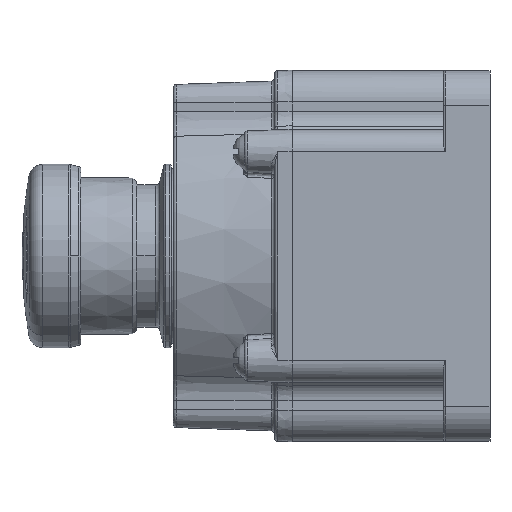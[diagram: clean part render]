
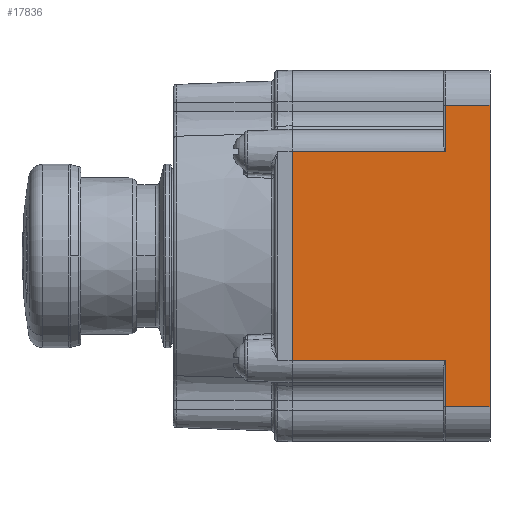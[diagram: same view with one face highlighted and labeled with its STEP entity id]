
A CAD part, left-side view. The second image highlights one B-rep face of the part: STEP entity #17836.
In plain terms, the highlighted planar face has unit normal (-1, 0, 0).
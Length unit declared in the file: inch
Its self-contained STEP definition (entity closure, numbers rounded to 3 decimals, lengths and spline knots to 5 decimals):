
#4824=DIRECTION('',(0.,1.,0.));
#4825=VECTOR('',#4824,0.38425);
#4826=CARTESIAN_POINT('',(0.,0.,-0.29806));
#4827=LINE('',#4826,#4825);
#4951=DIRECTION('',(0.,1.,0.));
#4952=VECTOR('',#4951,1.31575);
#4953=CARTESIAN_POINT('',(0.,0.38425,-0.69646));
#4954=LINE('',#4953,#4952);
#4966=DIRECTION('',(0.,0.,1.));
#4967=VECTOR('',#4966,1.79016);
#4968=CARTESIAN_POINT('',(0.,1.7,-2.48661));
#4969=LINE('',#4968,#4967);
#4970=DIRECTION('',(0.,0.,1.));
#4971=VECTOR('',#4970,0.3984);
#4972=CARTESIAN_POINT('',(0.,0.38425,-0.69646));
#4973=LINE('',#4972,#4971);
#4974=DIRECTION('',(0.,0.,-1.));
#4975=VECTOR('',#4974,2.58695);
#4976=CARTESIAN_POINT('',(0.,0.,-0.29806));
#4977=LINE('',#4976,#4975);
#4978=DIRECTION('',(0.,1.,0.));
#4979=VECTOR('',#4978,0.38425);
#4980=CARTESIAN_POINT('',(0.,0.,-2.88501));
#4981=LINE('',#4980,#4979);
#4982=DIRECTION('',(0.,0.,1.));
#4983=VECTOR('',#4982,0.3984);
#4984=CARTESIAN_POINT('',(0.,0.38425,-2.88501));
#4985=LINE('',#4984,#4983);
#5044=DIRECTION('',(0.,-1.,0.));
#5045=VECTOR('',#5044,1.31575);
#5046=CARTESIAN_POINT('',(0.,1.7,-2.48661));
#5047=LINE('',#5046,#5045);
#9417=CARTESIAN_POINT('',(0.,0.,-0.29806));
#9419=VERTEX_POINT('',#9417);
#9430=CARTESIAN_POINT('',(0.,0.,-2.88501));
#9432=VERTEX_POINT('',#9430);
#9779=CARTESIAN_POINT('',(0.,0.38425,-0.29806));
#9780=VERTEX_POINT('',#9779);
#9783=CARTESIAN_POINT('',(0.,0.38425,-0.69646));
#9784=VERTEX_POINT('',#9783);
#9789=CARTESIAN_POINT('',(0.,0.38425,-2.88501));
#9790=CARTESIAN_POINT('',(0.,0.38425,-2.48661));
#9791=VERTEX_POINT('',#9789);
#9792=VERTEX_POINT('',#9790);
#10213=CARTESIAN_POINT('',(0.,1.7,-2.48661));
#10214=CARTESIAN_POINT('',(0.,1.7,-0.69646));
#10215=VERTEX_POINT('',#10213);
#10216=VERTEX_POINT('',#10214);
#17818=CARTESIAN_POINT('',(0.,0.,-2.88501));
#17819=DIRECTION('',(-1.,0.,0.));
#17820=DIRECTION('',(0.,0.,1.));
#17821=AXIS2_PLACEMENT_3D('',#17818,#17819,#17820);
#17822=PLANE('',#17821);
#17823=ORIENTED_EDGE('',*,*,#11337,.T.);
#17824=ORIENTED_EDGE('',*,*,#17800,.F.);
#17825=ORIENTED_EDGE('',*,*,#17812,.T.);
#17826=ORIENTED_EDGE('',*,*,#17660,.F.);
#17827=ORIENTED_EDGE('',*,*,#11110,.T.);
#17829=ORIENTED_EDGE('',*,*,#17828,.T.);
#17831=ORIENTED_EDGE('',*,*,#17830,.T.);
#17833=ORIENTED_EDGE('',*,*,#17832,.F.);
#17834=EDGE_LOOP('',(#17823,#17824,#17825,#17826,#17827,#17829,#17831,#17833));
#17835=FACE_OUTER_BOUND('',#17834,.F.);
#17836=ADVANCED_FACE('',(#17835),#17822,.T.);
#11110=EDGE_CURVE('',#9419,#9432,#4977,.T.);
#11337=EDGE_CURVE('',#10215,#10216,#4969,.T.);
#17660=EDGE_CURVE('',#9419,#9780,#4827,.T.);
#17800=EDGE_CURVE('',#9784,#10216,#4954,.T.);
#17812=EDGE_CURVE('',#9784,#9780,#4973,.T.);
#17828=EDGE_CURVE('',#9432,#9791,#4981,.T.);
#17830=EDGE_CURVE('',#9791,#9792,#4985,.T.);
#17832=EDGE_CURVE('',#10215,#9792,#5047,.T.);
